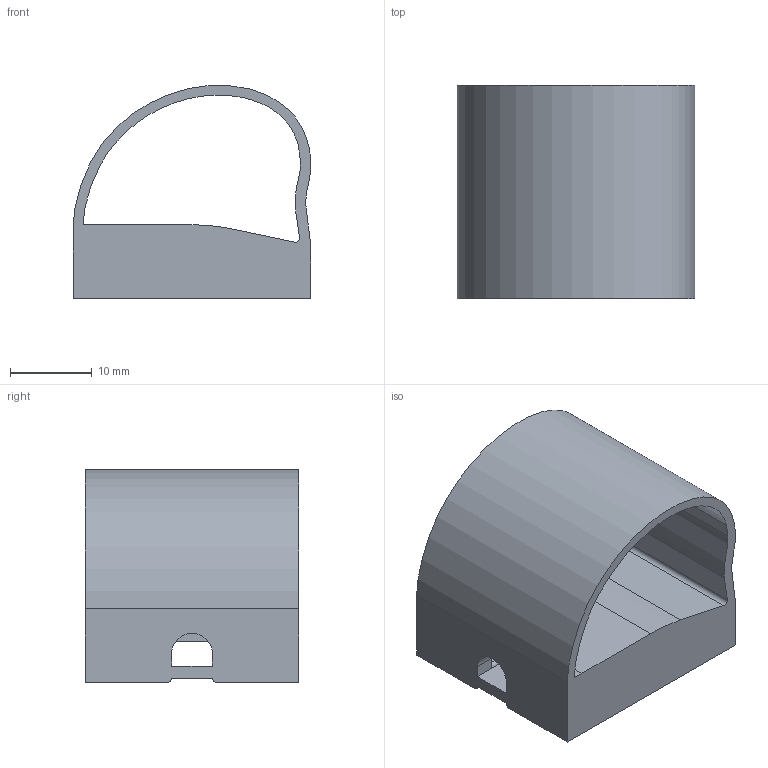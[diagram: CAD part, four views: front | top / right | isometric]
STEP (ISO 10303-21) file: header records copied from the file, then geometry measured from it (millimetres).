
FILE_DESCRIPTION(/* description */ ('Unknown'),/* implementation_level */ '2;1');
FILE_NAME(/* name */ 'Buffer-6',/* time_stamp */ '2021-04-11T15:06:44+01:00',/* author */ ('Unknown'),/* organization */ ('Unknown'),/* preprocessor_version */ 'ST-DEVELOPER v16.7',/* originating_system */ 'DEX',/* authorisation */ $);
FILE_SCHEMA (('AUTOMOTIVE_DESIGN {1 0 10303 214 3 1 1}'));
Length unit declared in the file: millimetre
Products named in the file (1): Buffer-6
Bounding box: 29 x 26 x 25.99 mm (x, y, z)
Volume: 5665.1 mm3; surface area: 6271 mm2
Topology: 1 solids, 1 shells, 47 faces, 131 edges, 81 vertices
Faces by surface type: plane 25, cylinder 13, bspline 5, sphere 4
Entity records: 1647 total; most frequent: CARTESIAN_POINT 438, ORIENTED_EDGE 254, DIRECTION 233, EDGE_CURVE 127, LINE 85, VECTOR 85, VERTEX_POINT 81, AXIS2_PLACEMENT_3D 74
